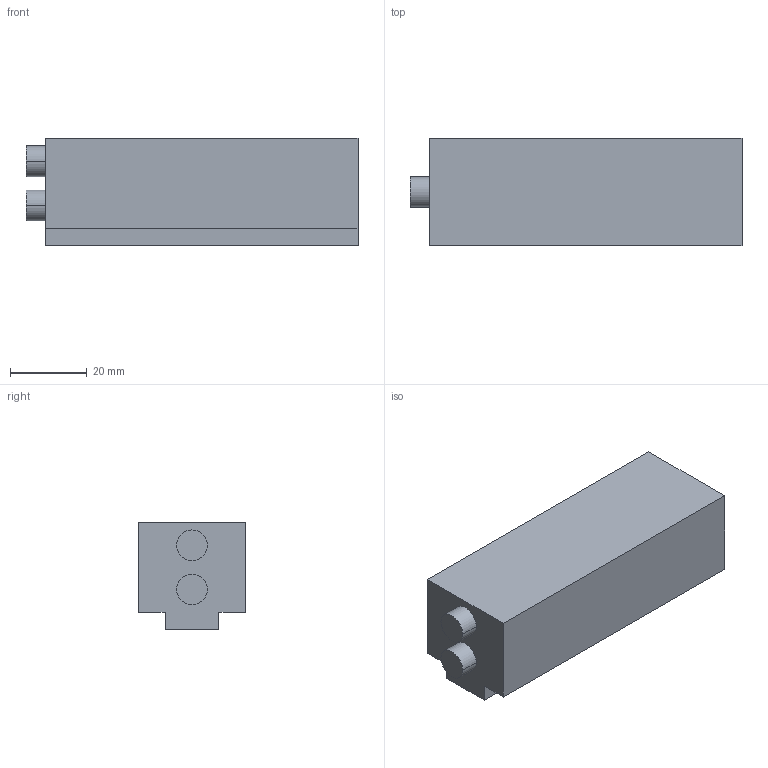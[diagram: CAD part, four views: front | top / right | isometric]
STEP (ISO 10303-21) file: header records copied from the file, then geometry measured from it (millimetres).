
FILE_DESCRIPTION(('STEP AP242'),'1');
FILE_NAME('OPO_65.082.71.stp','2026-01-30T20:56:03',(' '),(' '),'Spatial InterOp 3D',' ',' ');
FILE_SCHEMA(('AP242_MANAGED_MODEL_BASED_3D_ENGINEERING_MIM_LF {1 0 10303 442 1 1 4}'));
Length unit declared in the file: millimetre
Products named in the file (1): 1
Bounding box: 86.5 x 28 x 28 mm (x, y, z)
Volume: 59264.2 mm3; surface area: 11022.4 mm2
Topology: 3 solids, 3 shells, 60 faces, 148 edges, 98 vertices
Faces by surface type: plane 36, cylinder 24
Entity records: 2288 total; most frequent: DIRECTION 322, CARTESIAN_POINT 309, ORIENTED_EDGE 296, EDGE_CURVE 148, AXIS2_PLACEMENT_3D 111, LINE 100, VECTOR 100, VERTEX_POINT 98
